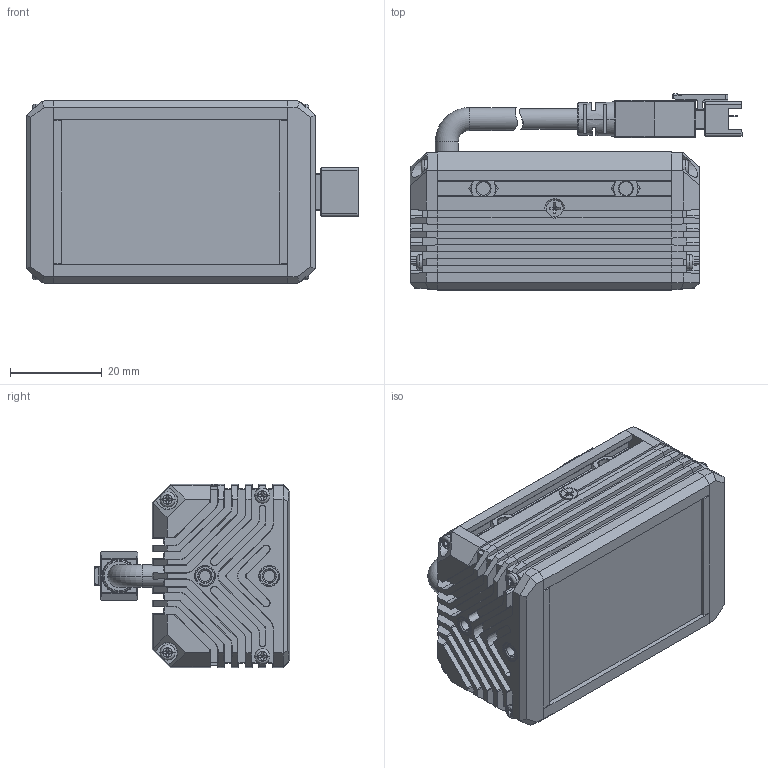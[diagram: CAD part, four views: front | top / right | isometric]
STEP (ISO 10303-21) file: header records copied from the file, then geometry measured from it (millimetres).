
FILE_DESCRIPTION((''),'2;1');
FILE_NAME('MV-LLDS-H-50-40-W-PL_ASM','2024-04-08T11:48:58',('huguozhe'),(''),'CREO PARAMETRIC BY PTC INC, 2020044','CREO PARAMETRIC BY PTC INC, 2020044','');
FILE_SCHEMA(('AUTOMOTIVE_DESIGN { 1 0 10303 214 1 1 1 1 }'));
Length unit declared in the file: millimetre
Products named in the file (15): DE-15-001174; DE-15-001173_ASM; DE-15-000451; DE-15-000450_ASM; DE-12-002350; TIP-M3X4-4_5X5-SO-ET-07061033; DE-12-002350_ASM; DE-12-001589; SC-KM2X6-BNI-GB819; XIANLAN_HEAD; CABLE_HEAD; CABLE_HEAD_ASM_ASM; 190100852; SC-PM2X6B-JMP; MV-LLDS-H-50-40-W-PL_ASM
Assembly tree (30 placements, depth 3):
  MV-LLDS-H-50-40-W-PL_ASM
    DE-15-001173_ASM
      DE-15-001174
    DE-15-000450_ASM
      DE-15-000451
    DE-12-002350_ASM  x2
      DE-12-002350
      TIP-M3X4-4_5X5-SO-ET-07061033
    DE-12-001589
    SC-KM2X6-BNI-GB819
    CABLE_HEAD_ASM_ASM
      XIANLAN_HEAD
      CABLE_HEAD
    190100852  x8
    SC-PM2X6B-JMP  x8
Bounding box: 72.3 x 42.65 x 40 mm (x, y, z)
Volume: 59409.2 mm3; surface area: 40467.7 mm2
Topology: 28 solids, 58 shells, 2644 faces, 6882 edges, 4349 vertices
Faces by surface type: plane 1274, cylinder 541, bspline 472, cone 304, torus 44, sphere 8, extrusion 1
Entity records: 47441 total; most frequent: CARTESIAN_POINT 11101, ORIENTED_EDGE 6082, DIRECTION 5817, EDGE_CURVE 3067, VECTOR 1993, LINE 1992, VERTEX_POINT 1967, AXIS2_PLACEMENT_3D 1912
